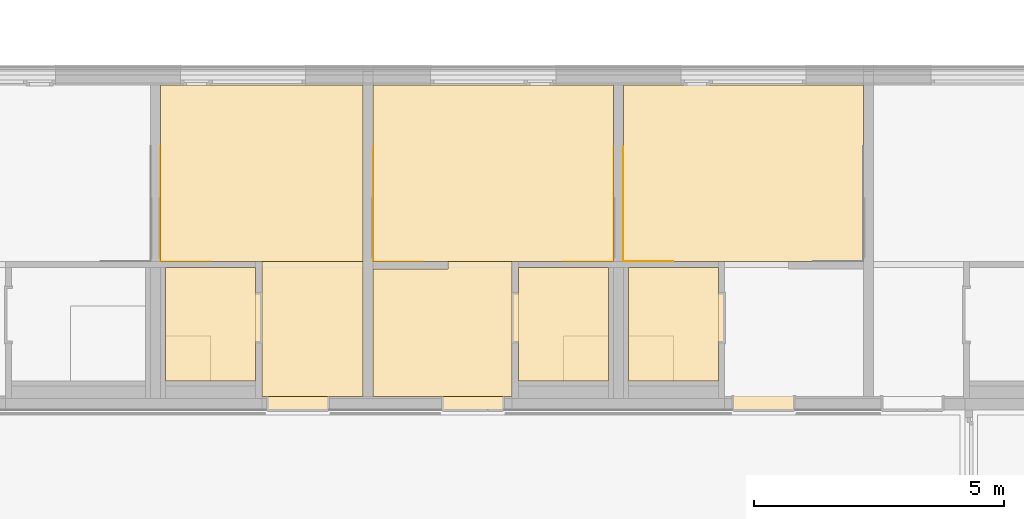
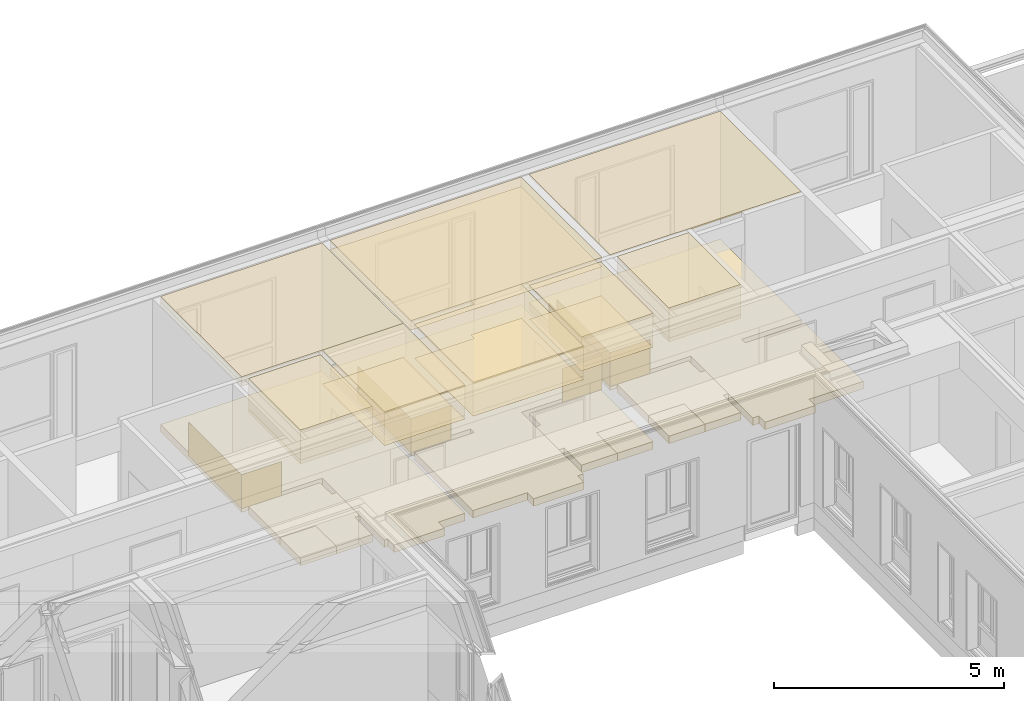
# One storey, part 174 of 207: 42 coverings.
"""IFC4 building model written with IfcOpenShell, lengths in metres."""

from ifc_helpers import new_model, entity, si_unit, converted_unit, derived_unit, frame, frame_2d, origin, origin_with_axes, place, context, subcontext, project, spatial, polyline, rectangle, outline, extrude, material, layer, layer_set, layer_usage, element, save


model = new_model("IFC4")

# Units and contexts
model_context = context("Model", 3, precision=1e-05, world=origin())
body_context = subcontext(model_context, "Body", "Model", "MODEL_VIEW")
ifc_project = project(units=[si_unit("LENGTHUNIT", "METRE"), si_unit("AREAUNIT", "SQUARE_METRE"), si_unit("VOLUMEUNIT", "CUBIC_METRE"), si_unit("MASSUNIT", "GRAM", prefix="KILO"), converted_unit("PLANEANGLEUNIT", "DEGREE", entity("IfcPlaneAngleMeasure", 0.0174532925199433), si_unit("PLANEANGLEUNIT", "RADIAN"), dimensions=[0, 0, 0, 0, 0, 0, 0]), derived_unit("THERMALTRANSMITTANCEUNIT", [(si_unit("POWERUNIT", "WATT"), 1), (si_unit("THERMODYNAMICTEMPERATUREUNIT", "KELVIN"), -1), (si_unit("LENGTHUNIT", "METRE"), -2)]), derived_unit("VOLUMETRICFLOWRATEUNIT", [(si_unit("LENGTHUNIT", "METRE"), 3), (converted_unit("TIMEUNIT", "hour", entity("IfcTimeMeasure", 3600.0), si_unit("TIMEUNIT", "SECOND"), dimensions=[0, 0, 1, 0, 0, 0, 0]), -1), (si_unit("LENGTHUNIT", "METRE"), -1)])], contexts=[model_context])

# Site, building, storey, space
site_placement = place(None, origin())
site = spatial("IfcSite", under=ifc_project, at=site_placement, Name="Psychiatrie Neubau Wunstorf", CompositionType="ELEMENT")
building_placement = place(site_placement, origin())
building = spatial("IfcBuilding", under=site, at=building_placement, Name="Neubau H2 Stationsgebäude", CompositionType="ELEMENT")
storey_placement = place(building_placement, frame((0.0, 0.0, -0.2)))
storey = spatial("IfcBuildingStorey", under=building, at=storey_placement, Name="H2 Ebene 0", CompositionType="ELEMENT", Elevation=-0.2)
space_1_placement = place(storey_placement, frame((23.0, 24.6995, 0.0)))
space_1 = spatial("IfcSpace", under=storey, at=space_1_placement, Name="WUN-H2-E00-045a", CompositionType="ELEMENT")

# Coverings
ifc_material_1 = material(Name="Fl1")
ifc_layer_1 = layer(ifc_material_1, 0.2)
ifc_layer_set_1 = layer_set([ifc_layer_1])
ifc_layer_usage_1 = layer_usage(ifc_layer_set_1, "AXIS3", "POSITIVE", 0.0)
covering_1_placement = place(space_1_placement, frame((-0.125, 0.0, 0.0)))
element("IfcCovering", 1, at=covering_1_placement, inside=space_1, material=ifc_layer_usage_1, Name="Fliesen", PredefinedType="FLOORING", context=body_context, shape_type="SweptSolid", body=[
    extrude(rectangle(XDim=0.125, YDim=1.01, at=frame_2d((0.0625, 0.505), x_axis=(1.0, 0.0))), frame((0.0, 0.755000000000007, 0.0), z_axis=(0.0, 0.0, 1.0), x_axis=(1.0, 0.0, 0.0)), (0.0, 0.0, 1.0), 0.2),
    extrude(outline(polyline([(0.899999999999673, 0.900000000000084), (1.8, 0.900000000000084), (1.8, 2.265), (0.0, 2.265), (0.0, 0.0), (0.899999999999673, 0.0), (0.899999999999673, 0.900000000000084)])), frame((0.125, 0.0, 0.0), z_axis=(0.0, 0.0, 1.0), x_axis=(1.0, 0.0, 0.0)), (0.0, 0.0, 1.0), 0.2),
])
ifc_material_2 = material(Name="Fl2")
ifc_layer_2 = layer(ifc_material_2, 0.2)
ifc_layer_set_2 = layer_set([ifc_layer_2])
ifc_layer_usage_2 = layer_usage(ifc_layer_set_2, "AXIS3", "POSITIVE", 0.0)
covering_2_placement = place(space_1_placement, frame((0.899999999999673, 0.0, 0.0)))
element("IfcCovering", 2, at=covering_2_placement, inside=space_1, material=ifc_layer_usage_2, Name="Fliesen Mosaik", PredefinedType="FLOORING", context=body_context, shape_type="SweptSolid", body=[
    extrude(rectangle(XDim=0.900000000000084, YDim=0.900000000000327, at=frame_2d((-0.450000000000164, 0.450000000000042), x_axis=(0.0, 1.0))), frame((0.900000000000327, 0.0, 0.0), z_axis=(0.0, 0.0, 1.0), x_axis=(1.0, 0.0, 0.0)), (0.0, 0.0, 1.0), 0.2),
])
ifc_material_3 = material()
ifc_layer_3 = layer(ifc_material_3, 0.036)
ifc_layer_set_3 = layer_set([ifc_layer_3])
ifc_layer_usage_3 = layer_usage(ifc_layer_set_3, "AXIS3", "POSITIVE", 0.0)
covering_3_placement = place(space_1_placement, frame((0.0, 0.0, 3.6)))
element("IfcCovering", 3, at=covering_3_placement, inside=space_1, material=ifc_layer_usage_3, Name="Gipsfaserplatten 2-lagig (BSK)", PredefinedType="CEILING", context=body_context, shape_type="SweptSolid", body=[
    extrude(rectangle(XDim=1.8, YDim=2.265, at=frame_2d((-0.9, -1.1325), x_axis=(-1.0, 0.0))), frame((1.8, 0.0, 0.0), z_axis=(0.0, 0.0, -1.0), x_axis=(1.0, 0.0, 0.0)), (0.0, 0.0, 1.0), 0.036),
])
ifc_material_4 = material(Name="Installationshöhe")
ifc_layer_4 = layer(ifc_material_4, 0.764)
ifc_layer_set_4 = layer_set([ifc_layer_4])
ifc_layer_usage_4 = layer_usage(ifc_layer_set_4, "AXIS3", "POSITIVE", 0.0)
covering_4_placement = place(space_1_placement, frame((0.0, 0.0, 3.564)))
element("IfcCovering", 4, at=covering_4_placement, inside=space_1, material=ifc_layer_usage_4, Name="Gipsfaserplatten 2-lagig (BSK)", PredefinedType="CEILING", context=body_context, shape_type="SweptSolid", body=[
    extrude(rectangle(XDim=1.8, YDim=2.265, at=frame_2d((-0.9, -1.1325), x_axis=(-1.0, 0.0))), frame((1.8, 0.0, 0.0), z_axis=(0.0, 0.0, -1.0), x_axis=(1.0, 0.0, 0.0)), (0.0, 0.0, 1.0), 0.764),
])
ifc_material_5 = material(Name="B")
ifc_layer_5 = layer(ifc_material_5, 0.1)
ifc_layer_set_5 = layer_set([ifc_layer_5])
ifc_layer_usage_5 = layer_usage(ifc_layer_set_5, "AXIS3", "POSITIVE", 0.0)
covering_5_placement = place(space_1_placement, frame((0.0, 0.0, 2.8)))
element("IfcCovering", 5, at=covering_5_placement, inside=space_1, material=ifc_layer_usage_5, Name="Gipskarton, imprägniert", PredefinedType="CEILING", context=body_context, shape_type="SweptSolid", body=[
    extrude(rectangle(XDim=1.8, YDim=2.265, at=frame_2d((-0.9, -1.1325), x_axis=(-1.0, 0.0))), frame((1.8, 0.0, 0.0), z_axis=(0.0, 0.0, -1.0), x_axis=(1.0, 0.0, 0.0)), (0.0, 0.0, 1.0), 0.1),
])
ifc_material_6 = material(Name="D1")
ifc_layer_6 = layer(ifc_material_6, 0.001)
ifc_layer_set_6 = layer_set([ifc_layer_6])
ifc_layer_usage_6 = layer_usage(ifc_layer_set_6, "AXIS3", "POSITIVE", 0.0)
covering_6_placement = place(space_1_placement, frame((0.0, 0.0, 2.7)))
element("IfcCovering", 6, at=covering_6_placement, inside=space_1, material=ifc_layer_usage_6, Name="Gipsfaserplatten 2-lagig (BSK)", PredefinedType="CEILING", context=body_context, shape_type="SweptSolid", body=[
    extrude(rectangle(XDim=1.8, YDim=2.265, at=frame_2d((-0.9, -1.1325), x_axis=(-1.0, 0.0))), frame((1.8, 0.0, 0.0), z_axis=(0.0, 0.0, -1.0), x_axis=(1.0, 0.0, 0.0)), (0.0, 0.0, 1.0), 0.001),
])

# Space
space_2_placement = place(storey_placement, frame((15.95, 24.6995, 0.0)))
space_2 = spatial("IfcSpace", under=storey, at=space_2_placement, Name="WUN-H2-E00-044a", CompositionType="ELEMENT")

# Coverings
ifc_material_7 = material(Name="Fl1")
ifc_layer_7 = layer(ifc_material_7, 0.2)
ifc_layer_set_7 = layer_set([ifc_layer_7])
ifc_layer_usage_7 = layer_usage(ifc_layer_set_7, "AXIS3", "POSITIVE", 0.0)
covering_7_placement = place(space_2_placement, origin())
element("IfcCovering", 7, at=covering_7_placement, inside=space_2, material=ifc_layer_usage_7, Name="Fliesen", PredefinedType="FLOORING", context=body_context, shape_type="SweptSolid", body=[
    extrude(rectangle(XDim=0.125, YDim=1.01, at=frame_2d((-0.0625, -0.505), x_axis=(-1.0, 0.0))), frame((1.925, 1.76500000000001, 0.0), z_axis=(0.0, 0.0, 1.0), x_axis=(1.0, 0.0, 0.0)), (0.0, 0.0, 1.0), 0.2),
    extrude(outline(polyline([(0.900000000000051, 0.0), (1.8, 0.0), (1.8, 2.265), (0.0, 2.265), (0.0, 0.900000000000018), (0.900000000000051, 0.900000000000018), (0.900000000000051, 0.0)])), origin_with_axes(), (0.0, 0.0, 1.0), 0.2),
])
ifc_material_8 = material(Name="Fl2")
ifc_layer_8 = layer(ifc_material_8, 0.2)
ifc_layer_set_8 = layer_set([ifc_layer_8])
ifc_layer_usage_8 = layer_usage(ifc_layer_set_8, "AXIS3", "POSITIVE", 0.0)
covering_8_placement = place(space_2_placement, origin())
element("IfcCovering", 8, at=covering_8_placement, inside=space_2, material=ifc_layer_usage_8, Name="Fliesen Mosaik", PredefinedType="FLOORING", context=body_context, shape_type="SweptSolid", body=[
    extrude(rectangle(XDim=0.900000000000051, YDim=0.9, at=frame_2d((0.450000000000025, 0.45), x_axis=(1.0, 0.0))), origin_with_axes(), (0.0, 0.0, 1.0), 0.2),
])
ifc_material_9 = material()
ifc_layer_9 = layer(ifc_material_9, 0.036)
ifc_layer_set_9 = layer_set([ifc_layer_9])
ifc_layer_usage_9 = layer_usage(ifc_layer_set_9, "AXIS3", "POSITIVE", 0.0)
covering_9_placement = place(space_2_placement, frame((0.0, 0.0, 3.6)))
element("IfcCovering", 9, at=covering_9_placement, inside=space_2, material=ifc_layer_usage_9, Name="Gipsfaserplatten 2-lagig (BSK)", PredefinedType="CEILING", context=body_context, shape_type="SweptSolid", body=[
    extrude(rectangle(XDim=1.8, YDim=2.265, at=frame_2d((0.9, 1.1325), x_axis=(1.0, 0.0))), frame((0.0, 2.265, 0.0), z_axis=(0.0, 0.0, -1.0), x_axis=(1.0, 0.0, 0.0)), (0.0, 0.0, 1.0), 0.036),
])
ifc_material_10 = material(Name="Installationshöhe")
ifc_layer_10 = layer(ifc_material_10, 0.764)
ifc_layer_set_10 = layer_set([ifc_layer_10])
ifc_layer_usage_10 = layer_usage(ifc_layer_set_10, "AXIS3", "POSITIVE", 0.0)
covering_10_placement = place(space_2_placement, frame((0.0, 0.0, 3.564)))
element("IfcCovering", 10, at=covering_10_placement, inside=space_2, material=ifc_layer_usage_10, Name="Gipsfaserplatten 2-lagig (BSK)", PredefinedType="CEILING", context=body_context, shape_type="SweptSolid", body=[
    extrude(rectangle(XDim=1.8, YDim=2.265, at=frame_2d((0.9, 1.1325), x_axis=(1.0, 0.0))), frame((0.0, 2.265, 0.0), z_axis=(0.0, 0.0, -1.0), x_axis=(1.0, 0.0, 0.0)), (0.0, 0.0, 1.0), 0.764),
])
ifc_material_11 = material(Name="B")
ifc_layer_11 = layer(ifc_material_11, 0.1)
ifc_layer_set_11 = layer_set([ifc_layer_11])
ifc_layer_usage_11 = layer_usage(ifc_layer_set_11, "AXIS3", "POSITIVE", 0.0)
covering_11_placement = place(space_2_placement, frame((0.0, 0.0, 2.8)))
element("IfcCovering", 11, at=covering_11_placement, inside=space_2, material=ifc_layer_usage_11, Name="Gipskarton, imprägniert", PredefinedType="CEILING", context=body_context, shape_type="SweptSolid", body=[
    extrude(rectangle(XDim=1.8, YDim=2.265, at=frame_2d((0.9, 1.1325), x_axis=(1.0, 0.0))), frame((0.0, 2.265, 0.0), z_axis=(0.0, 0.0, -1.0), x_axis=(1.0, 0.0, 0.0)), (0.0, 0.0, 1.0), 0.1),
])
ifc_material_12 = material(Name="D1")
ifc_layer_12 = layer(ifc_material_12, 0.001)
ifc_layer_set_12 = layer_set([ifc_layer_12])
ifc_layer_usage_12 = layer_usage(ifc_layer_set_12, "AXIS3", "POSITIVE", 0.0)
covering_12_placement = place(space_2_placement, frame((0.0, 0.0, 2.7)))
element("IfcCovering", 12, at=covering_12_placement, inside=space_2, material=ifc_layer_usage_12, Name="Gipsfaserplatten 2-lagig (BSK)", PredefinedType="CEILING", context=body_context, shape_type="SweptSolid", body=[
    extrude(rectangle(XDim=1.8, YDim=2.265, at=frame_2d((0.9, 1.1325), x_axis=(1.0, 0.0))), frame((0.0, 2.265, 0.0), z_axis=(0.0, 0.0, -1.0), x_axis=(1.0, 0.0, 0.0)), (0.0, 0.0, 1.0), 0.001),
])

# Space
space_3_placement = place(storey_placement, frame((25.2, 24.6995, 0.0)))
space_3 = spatial("IfcSpace", under=storey, at=space_3_placement, Name="WUN-H2-E00-046a", CompositionType="ELEMENT")

# Coverings
ifc_material_13 = material(Name="Fl1")
ifc_layer_13 = layer(ifc_material_13, 0.2)
ifc_layer_set_13 = layer_set([ifc_layer_13])
ifc_layer_usage_13 = layer_usage(ifc_layer_set_13, "AXIS3", "POSITIVE", 0.0)
covering_13_placement = place(space_3_placement, origin())
element("IfcCovering", 13, at=covering_13_placement, inside=space_3, material=ifc_layer_usage_13, Name="Fliesen", PredefinedType="FLOORING", context=body_context, shape_type="SweptSolid", body=[
    extrude(rectangle(XDim=0.125, YDim=1.01, at=frame_2d((-0.0625, -0.505), x_axis=(-1.0, 0.0))), frame((1.925, 1.76500000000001, 0.0), z_axis=(0.0, 0.0, 1.0), x_axis=(1.0, 0.0, 0.0)), (0.0, 0.0, 1.0), 0.2),
    extrude(outline(polyline([(0.900000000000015, 0.0), (1.8, 0.0), (1.8, 2.265), (0.0, 2.265), (0.0, 0.900000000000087), (0.900000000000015, 0.900000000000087), (0.900000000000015, 0.0)])), origin_with_axes(), (0.0, 0.0, 1.0), 0.2),
])
ifc_material_14 = material(Name="Fl2")
ifc_layer_14 = layer(ifc_material_14, 0.2)
ifc_layer_set_14 = layer_set([ifc_layer_14])
ifc_layer_usage_14 = layer_usage(ifc_layer_set_14, "AXIS3", "POSITIVE", 0.0)
covering_14_placement = place(space_3_placement, origin())
element("IfcCovering", 14, at=covering_14_placement, inside=space_3, material=ifc_layer_usage_14, Name="Fliesen Mosaik", PredefinedType="FLOORING", context=body_context, shape_type="SweptSolid", body=[
    extrude(rectangle(XDim=0.900000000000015, YDim=0.900000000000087, at=frame_2d((0.450000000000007, 0.450000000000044), x_axis=(1.0, 0.0))), origin_with_axes(), (0.0, 0.0, 1.0), 0.2),
])
ifc_material_15 = material()
ifc_layer_15 = layer(ifc_material_15, 0.036)
ifc_layer_set_15 = layer_set([ifc_layer_15])
ifc_layer_usage_15 = layer_usage(ifc_layer_set_15, "AXIS3", "POSITIVE", 0.0)
covering_15_placement = place(space_3_placement, frame((0.0, 0.0, 3.6)))
element("IfcCovering", 15, at=covering_15_placement, inside=space_3, material=ifc_layer_usage_15, Name="Gipsfaserplatten 2-lagig (BSK)", PredefinedType="CEILING", context=body_context, shape_type="SweptSolid", body=[
    extrude(rectangle(XDim=1.8, YDim=2.265, at=frame_2d((-0.9, -1.1325), x_axis=(-1.0, 0.0))), frame((1.8, 0.0, 0.0), z_axis=(0.0, 0.0, -1.0), x_axis=(1.0, 0.0, 0.0)), (0.0, 0.0, 1.0), 0.036),
])
ifc_material_16 = material(Name="Installationshöhe")
ifc_layer_16 = layer(ifc_material_16, 0.764)
ifc_layer_set_16 = layer_set([ifc_layer_16])
ifc_layer_usage_16 = layer_usage(ifc_layer_set_16, "AXIS3", "POSITIVE", 0.0)
covering_16_placement = place(space_3_placement, frame((0.0, 0.0, 3.564)))
element("IfcCovering", 16, at=covering_16_placement, inside=space_3, material=ifc_layer_usage_16, Name="Gipsfaserplatten 2-lagig (BSK)", PredefinedType="CEILING", context=body_context, shape_type="SweptSolid", body=[
    extrude(rectangle(XDim=1.8, YDim=2.265, at=frame_2d((-0.9, -1.1325), x_axis=(-1.0, 0.0))), frame((1.8, 0.0, 0.0), z_axis=(0.0, 0.0, -1.0), x_axis=(1.0, 0.0, 0.0)), (0.0, 0.0, 1.0), 0.764),
])
ifc_material_17 = material(Name="B")
ifc_layer_17 = layer(ifc_material_17, 0.1)
ifc_layer_set_17 = layer_set([ifc_layer_17])
ifc_layer_usage_17 = layer_usage(ifc_layer_set_17, "AXIS3", "POSITIVE", 0.0)
covering_17_placement = place(space_3_placement, frame((0.0, 0.0, 2.8)))
element("IfcCovering", 17, at=covering_17_placement, inside=space_3, material=ifc_layer_usage_17, Name="Gipskarton, imprägniert", PredefinedType="CEILING", context=body_context, shape_type="SweptSolid", body=[
    extrude(rectangle(XDim=1.8, YDim=2.265, at=frame_2d((-0.9, -1.1325), x_axis=(-1.0, 0.0))), frame((1.8, 0.0, 0.0), z_axis=(0.0, 0.0, -1.0), x_axis=(1.0, 0.0, 0.0)), (0.0, 0.0, 1.0), 0.1),
])
ifc_material_18 = material(Name="D1")
ifc_layer_18 = layer(ifc_material_18, 0.001)
ifc_layer_set_18 = layer_set([ifc_layer_18])
ifc_layer_usage_18 = layer_usage(ifc_layer_set_18, "AXIS3", "POSITIVE", 0.0)
covering_18_placement = place(space_3_placement, frame((0.0, 0.0, 2.7)))
element("IfcCovering", 18, at=covering_18_placement, inside=space_3, material=ifc_layer_usage_18, Name="Gipsfaserplatten 2-lagig (BSK)", PredefinedType="CEILING", context=body_context, shape_type="SweptSolid", body=[
    extrude(rectangle(XDim=1.8, YDim=2.265, at=frame_2d((-0.9, -1.1325), x_axis=(-1.0, 0.0))), frame((1.8, 0.0, 0.0), z_axis=(0.0, 0.0, -1.0), x_axis=(1.0, 0.0, 0.0)), (0.0, 0.0, 1.0), 0.001),
])

# Space
space_4_placement = place(storey_placement, frame((25.1, 24.3895, 0.0)))
space_4 = spatial("IfcSpace", under=storey, at=space_4_placement, Name="WUN-H2-E00-046", CompositionType="ELEMENT")

# Coverings
ifc_material_19 = material(Name="84")
ifc_layer_19 = layer(ifc_material_19, 0.001)
ifc_layer_set_19 = layer_set([ifc_layer_19])
ifc_layer_usage_19 = layer_usage(ifc_layer_set_19, "AXIS3", "POSITIVE", 0.0)
covering_19_placement = place(space_4_placement, frame((0.0, 2.69999999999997, 0.1)))
element("IfcCovering", 19, at=covering_19_placement, inside=space_4, material=ifc_layer_usage_19, Name="Acrobyn", PredefinedType="CLADDING", context=body_context, shape_type="SweptSolid", body=[
    extrude(rectangle(XDim=2.3, YDim=0.9, at=frame_2d((1.15, -0.45), x_axis=(1.0, 0.0))), frame((0.0, 2.3, 0.0), z_axis=(1.0, 0.0, 0.0), x_axis=(0.0, -1.0, 0.0)), (0.0, 0.0, 1.0), 0.001),
    extrude(rectangle(XDim=1.00000000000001, YDim=0.9, at=frame_2d((0.500000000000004, -0.45), x_axis=(1.0, 0.0))), frame((0.0, 0.0, 0.0), z_axis=(0.0, 1.0, 0.0), x_axis=(1.0, 0.0, 0.0)), (0.0, 0.0, 1.0), 0.001),
])
ifc_material_20 = material(Name="Ku1")
ifc_layer_20 = layer(ifc_material_20, 0.2)
ifc_layer_set_20 = layer_set([ifc_layer_20])
ifc_layer_usage_20 = layer_usage(ifc_layer_set_20, "AXIS3", "POSITIVE", 0.0)
covering_20_placement = place(space_4_placement, frame((0.0, -0.271999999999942, 0.0)))
element("IfcCovering", 20, at=covering_20_placement, inside=space_4, material=ifc_layer_usage_20, Name="PVC Bahnenware Holzoptik", PredefinedType="FLOORING", context=body_context, shape_type="SweptSolid", body=[
    extrude(rectangle(XDim=0.272000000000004, YDim=1.26, at=frame_2d((0.629999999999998, -0.136000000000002), x_axis=(-1.33749220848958e-14, -1.0))), frame((2.175, 0.272000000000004, 0.0), z_axis=(0.0, 0.0, 1.0), x_axis=(1.0, 0.0, 0.0)), (0.0, 0.0, 1.0), 0.2),
    extrude(outline(polyline([(4.8, 0.0), (4.79999999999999, 2.54999999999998), (3.29999999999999, 2.54999999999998), (3.29999999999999, 2.69999999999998), (4.8, 2.69999999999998), (4.8, 6.22450000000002), (0.0, 6.22450000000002), (0.0, 2.69999999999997), (2.025, 2.69999999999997), (2.025, 0.0), (4.8, 0.0)])), frame((0.0, 0.271999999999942, 0.0), z_axis=(0.0, 0.0, 1.0), x_axis=(1.0, 0.0, 0.0)), (0.0, 0.0, 1.0), 0.2),
])
ifc_material_21 = material()
ifc_layer_21 = layer(ifc_material_21, 0.036)
ifc_layer_set_21 = layer_set([ifc_layer_21])
ifc_layer_usage_21 = layer_usage(ifc_layer_set_21, "AXIS3", "POSITIVE", 0.0)
covering_21_placement = place(space_4_placement, frame((0.0, 2.69999999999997, 3.6)))
element("IfcCovering", 21, at=covering_21_placement, inside=space_4, material=ifc_layer_usage_21, Name="Gipsfaserplatten 2-lagig (BSK)", PredefinedType="CEILING", context=body_context, shape_type="SweptSolid", body=[
    extrude(rectangle(XDim=3.52450000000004, YDim=4.8, at=frame_2d((2.4, -1.76225000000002), x_axis=(0.0, -1.0))), frame((0.0, 0.0, 0.0), z_axis=(0.0, 0.0, -1.0), x_axis=(1.0, 0.0, 0.0)), (0.0, 0.0, 1.0), 0.036),
])

# Space
space_5_placement = place(storey_placement, frame((20.1, 24.3895, 0.0)))
space_5 = spatial("IfcSpace", under=storey, at=space_5_placement, Name="WUN-H2-E00-045", CompositionType="ELEMENT")

# Coverings
ifc_material_22 = material(Name="84")
ifc_layer_22 = layer(ifc_material_22, 0.001)
ifc_layer_set_22 = layer_set([ifc_layer_22])
ifc_layer_usage_22 = layer_usage(ifc_layer_set_22, "AXIS3", "POSITIVE", 0.0)
covering_22_placement = place(space_5_placement, frame((3.80000000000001, 2.69999999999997, 0.1)))
element("IfcCovering", 22, at=covering_22_placement, inside=space_5, material=ifc_layer_usage_22, Name="Acrobyn", PredefinedType="CLADDING", context=body_context, shape_type="SweptSolid", body=[
    extrude(rectangle(XDim=0.9, YDim=2.3, at=frame_2d((-1.15, -0.45), x_axis=(0.0, -1.0))), frame((1.0, 2.3, 0.0), z_axis=(-1.0, 0.0, 0.0), x_axis=(0.0, 1.0, 0.0)), (0.0, 0.0, 1.0), 0.001),
    extrude(rectangle(XDim=0.9, YDim=1.0, at=frame_2d((-0.5, -0.45), x_axis=(0.0, -1.0))), frame((1.0, 0.0, 0.0), z_axis=(0.0, 1.0, 0.0), x_axis=(1.0, 0.0, 0.0)), (0.0, 0.0, 1.0), 0.001),
])
ifc_material_23 = material(Name="84")
ifc_layer_23 = layer(ifc_material_23, 0.001)
ifc_layer_set_23 = layer_set([ifc_layer_23])
ifc_layer_usage_23 = layer_usage(ifc_layer_set_23, "AXIS3", "POSITIVE", 0.0)
covering_23_placement = place(space_5_placement, frame((0.0, 2.69999999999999, 0.1)))
element("IfcCovering", 23, at=covering_23_placement, inside=space_5, material=ifc_layer_usage_23, Name="Acrobyn", PredefinedType="CLADDING", context=body_context, shape_type="SweptSolid", body=[
    extrude(rectangle(XDim=2.3, YDim=0.9, at=frame_2d((1.15, -0.45), x_axis=(1.0, 0.0))), frame((0.0, 2.3, 0.0), z_axis=(1.0, 0.0, 0.0), x_axis=(0.0, -1.0, 0.0)), (0.0, 0.0, 1.0), 0.001),
    extrude(rectangle(XDim=1.00000000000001, YDim=0.9, at=frame_2d((0.500000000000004, -0.45), x_axis=(1.0, 0.0))), frame((0.0, 0.0, 0.0), z_axis=(0.0, 1.0, 0.0), x_axis=(1.0, 0.0, 0.0)), (0.0, 0.0, 1.0), 0.001),
])
ifc_material_24 = material(Name="Ku1")
ifc_layer_24 = layer(ifc_material_24, 0.2)
ifc_layer_set_24 = layer_set([ifc_layer_24])
ifc_layer_usage_24 = layer_usage(ifc_layer_set_24, "AXIS3", "POSITIVE", 0.0)
covering_24_placement = place(space_5_placement, frame((0.0, -0.271999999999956, 0.0)))
element("IfcCovering", 24, at=covering_24_placement, inside=space_5, material=ifc_layer_usage_24, Name="PVC Bahnenware Holzoptik", PredefinedType="FLOORING", context=body_context, shape_type="SweptSolid", body=[
    extrude(rectangle(XDim=0.272, YDim=1.26, at=frame_2d((0.63, -0.135999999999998), x_axis=(0.0, -1.0))), frame((1.36500000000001, 0.272, 0.0), z_axis=(0.0, 0.0, 1.0), x_axis=(1.0, 0.0, 0.0)), (0.0, 0.0, 1.0), 0.2),
    extrude(outline(polyline([(2.77500000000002, 2.69999999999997), (4.80000000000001, 2.69999999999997), (4.80000000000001, 6.22450000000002), (0.0, 6.22450000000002), (0.0, 2.69999999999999), (1.50000000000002, 2.69999999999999), (1.5, 2.54999999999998), (0.0, 2.54999999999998), (0.0, 0.0), (2.77500000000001, 0.0), (2.77500000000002, 2.69999999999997)])), frame((0.0, 0.271999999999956, 0.0), z_axis=(0.0, 0.0, 1.0), x_axis=(1.0, 0.0, 0.0)), (0.0, 0.0, 1.0), 0.2),
])
ifc_material_25 = material()
ifc_layer_25 = layer(ifc_material_25, 0.036)
ifc_layer_set_25 = layer_set([ifc_layer_25])
ifc_layer_usage_25 = layer_usage(ifc_layer_set_25, "AXIS3", "POSITIVE", 0.0)
covering_25_placement = place(space_5_placement, frame((0.0, 0.0, 3.6)))
element("IfcCovering", 25, at=covering_25_placement, inside=space_5, material=ifc_layer_usage_25, Name="Gipsfaserplatten 2-lagig (BSK)", PredefinedType="CEILING", context=body_context, shape_type="SweptSolid", body=[
    extrude(outline(polyline([(0.0, 2.69999999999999), (0.0, 0.150000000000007), (1.5, 0.150000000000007), (1.50000000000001, 0.0), (2.77500000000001, 0.0), (2.77500000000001, 2.69999999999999), (0.0, 2.69999999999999)])), frame((0.0, 2.69999999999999, 0.0), z_axis=(0.0, 0.0, -1.0), x_axis=(1.0, 0.0, 0.0)), (0.0, 0.0, 1.0), 0.036),
])
ifc_material_26 = material(Name="Installationshöhe")
ifc_layer_26 = layer(ifc_material_26, 0.764)
ifc_layer_set_26 = layer_set([ifc_layer_26])
ifc_layer_usage_26 = layer_usage(ifc_layer_set_26, "AXIS3", "POSITIVE", 0.0)
covering_26_placement = place(space_5_placement, frame((0.0, 0.0, 3.564)))
element("IfcCovering", 26, at=covering_26_placement, inside=space_5, material=ifc_layer_usage_26, Name="Gipsfaserplatten 2-lagig (BSK)", PredefinedType="CEILING", context=body_context, shape_type="SweptSolid", body=[
    extrude(outline(polyline([(0.0, 2.69999999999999), (0.0, 0.150000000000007), (1.5, 0.150000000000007), (1.50000000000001, 0.0), (2.77500000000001, 0.0), (2.77500000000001, 2.69999999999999), (0.0, 2.69999999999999)])), frame((0.0, 2.69999999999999, 0.0), z_axis=(0.0, 0.0, -1.0), x_axis=(1.0, 0.0, 0.0)), (0.0, 0.0, 1.0), 0.764),
])
ifc_material_27 = material(Name="A1")
ifc_layer_27 = layer(ifc_material_27, 0.1)
ifc_layer_set_27 = layer_set([ifc_layer_27])
ifc_layer_usage_27 = layer_usage(ifc_layer_set_27, "AXIS3", "POSITIVE", 0.0)
covering_27_placement = place(space_5_placement, frame((0.0, 0.0, 2.8)))
element("IfcCovering", 27, at=covering_27_placement, inside=space_5, material=ifc_layer_usage_27, Name="Gipsfaserplatten 2-lagig (BSK)", PredefinedType="CEILING", context=body_context, shape_type="SweptSolid", body=[
    extrude(outline(polyline([(0.0, 2.69999999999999), (0.0, 0.150000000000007), (1.5, 0.150000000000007), (1.50000000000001, 0.0), (2.77500000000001, 0.0), (2.77500000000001, 2.69999999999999), (0.0, 2.69999999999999)])), frame((0.0, 2.69999999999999, 0.0), z_axis=(0.0, 0.0, -1.0), x_axis=(1.0, 0.0, 0.0)), (0.0, 0.0, 1.0), 0.1),
])
ifc_material_28 = material(Name="D1")
ifc_layer_28 = layer(ifc_material_28, 0.001)
ifc_layer_set_28 = layer_set([ifc_layer_28])
ifc_layer_usage_28 = layer_usage(ifc_layer_set_28, "AXIS3", "POSITIVE", 0.0)
covering_28_placement = place(space_5_placement, frame((0.0, 0.0, 2.7)))
element("IfcCovering", 28, at=covering_28_placement, inside=space_5, material=ifc_layer_usage_28, Name="Gipsfaserplatten 2-lagig (BSK)", PredefinedType="CEILING", context=body_context, shape_type="SweptSolid", body=[
    extrude(outline(polyline([(0.0, 2.69999999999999), (0.0, 0.150000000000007), (1.5, 0.150000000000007), (1.50000000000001, 0.0), (2.77500000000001, 0.0), (2.77500000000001, 2.69999999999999), (0.0, 2.69999999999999)])), frame((0.0, 2.69999999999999, 0.0), z_axis=(0.0, 0.0, -1.0), x_axis=(1.0, 0.0, 0.0)), (0.0, 0.0, 1.0), 0.001),
])
ifc_material_29 = material()
ifc_layer_29 = layer(ifc_material_29, 0.036)
ifc_layer_set_29 = layer_set([ifc_layer_29])
ifc_layer_usage_29 = layer_usage(ifc_layer_set_29, "AXIS3", "POSITIVE", 0.0)
covering_29_placement = place(space_5_placement, frame((0.0, 2.69999999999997, 3.6)))
element("IfcCovering", 29, at=covering_29_placement, inside=space_5, material=ifc_layer_usage_29, Name="Gipsfaserplatten 2-lagig (BSK)", PredefinedType="CEILING", context=body_context, shape_type="SweptSolid", body=[
    extrude(rectangle(XDim=4.8, YDim=3.52450000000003, at=frame_2d((-2.4, -1.76225000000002), x_axis=(-1.0, -3.03164900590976e-15))), frame((4.8, 0.0, 0.0), z_axis=(0.0, 0.0, -1.0), x_axis=(1.0, 0.0, 0.0)), (0.0, 0.0, 1.0), 0.036),
])
ifc_material_30 = material(Name="Installationshöhe")
ifc_layer_30 = layer(ifc_material_30, 0.114)
ifc_layer_set_30 = layer_set([ifc_layer_30])
ifc_layer_usage_30 = layer_usage(ifc_layer_set_30, "AXIS3", "POSITIVE", 0.0)
covering_30_placement = place(space_5_placement, frame((0.0, 2.69999999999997, 3.564)))
element("IfcCovering", 30, at=covering_30_placement, inside=space_5, material=ifc_layer_usage_30, Name="Gipsfaserplatten 2-lagig (BSK)", PredefinedType="CEILING", context=body_context, shape_type="SweptSolid", body=[
    extrude(rectangle(XDim=4.8, YDim=3.52450000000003, at=frame_2d((-2.4, -1.76225000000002), x_axis=(-1.0, -3.03164900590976e-15))), frame((4.8, 0.0, 0.0), z_axis=(0.0, 0.0, -1.0), x_axis=(1.0, 0.0, 0.0)), (0.0, 0.0, 1.0), 0.114),
])
ifc_material_31 = material(Name="A1")
ifc_layer_31 = layer(ifc_material_31, 0.1)
ifc_layer_set_31 = layer_set([ifc_layer_31])
ifc_layer_usage_31 = layer_usage(ifc_layer_set_31, "AXIS3", "POSITIVE", 0.0)
covering_31_placement = place(space_5_placement, frame((0.0, 2.69999999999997, 3.45)))
element("IfcCovering", 31, at=covering_31_placement, inside=space_5, material=ifc_layer_usage_31, Name="Gipsfaserplatten 2-lagig (BSK)", PredefinedType="CEILING", context=body_context, shape_type="SweptSolid", body=[
    extrude(rectangle(XDim=4.8, YDim=3.52450000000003, at=frame_2d((-2.4, -1.76225000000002), x_axis=(-1.0, -3.03164900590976e-15))), frame((4.8, 0.0, 0.0), z_axis=(0.0, 0.0, -1.0), x_axis=(1.0, 0.0, 0.0)), (0.0, 0.0, 1.0), 0.1),
])
ifc_material_32 = material(Name="D1")
ifc_layer_32 = layer(ifc_material_32, 0.001)
ifc_layer_set_32 = layer_set([ifc_layer_32])
ifc_layer_usage_32 = layer_usage(ifc_layer_set_32, "AXIS3", "POSITIVE", 0.0)
covering_32_placement = place(space_5_placement, frame((0.0, 2.69999999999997, 3.35)))
element("IfcCovering", 32, at=covering_32_placement, inside=space_5, material=ifc_layer_usage_32, Name="Gipsfaserplatten 2-lagig (BSK)", PredefinedType="CEILING", context=body_context, shape_type="SweptSolid", body=[
    extrude(rectangle(XDim=4.8, YDim=3.52450000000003, at=frame_2d((-2.4, -1.76225000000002), x_axis=(-1.0, -3.03164900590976e-15))), frame((4.8, 0.0, 0.0), z_axis=(0.0, 0.0, -1.0), x_axis=(1.0, 0.0, 0.0)), (0.0, 0.0, 1.0), 0.001),
])

# Space
space_6_placement = place(storey_placement, frame((15.85, 24.3895, 0.0)))
space_6 = spatial("IfcSpace", under=storey, at=space_6_placement, Name="WUN-H2-E00-044", CompositionType="ELEMENT")

# Coverings
ifc_material_33 = material(Name="84")
ifc_layer_33 = layer(ifc_material_33, 0.001)
ifc_layer_set_33 = layer_set([ifc_layer_33])
ifc_layer_usage_33 = layer_usage(ifc_layer_set_33, "AXIS3", "POSITIVE", 0.0)
covering_33_placement = place(space_6_placement, frame((0.0, 2.69999999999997, 0.1)))
element("IfcCovering", 33, at=covering_33_placement, inside=space_6, material=ifc_layer_usage_33, Name="Acrobyn", PredefinedType="CLADDING", context=body_context, shape_type="SweptSolid", body=[
    extrude(rectangle(XDim=2.3, YDim=0.9, at=frame_2d((1.15, -0.45), x_axis=(1.0, 0.0))), frame((0.0, 2.3, 0.0), z_axis=(1.0, 0.0, 0.0), x_axis=(0.0, -1.0, 0.0)), (0.0, 0.0, 1.0), 0.001),
    extrude(rectangle(XDim=1.00000000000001, YDim=0.9, at=frame_2d((0.500000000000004, -0.45), x_axis=(1.0, 0.0))), frame((0.0, 0.0, 0.0), z_axis=(0.0, 1.0, 0.0), x_axis=(1.0, 0.0, 0.0)), (0.0, 0.0, 1.0), 0.001),
])
ifc_material_34 = material(Name="Ku1")
ifc_layer_34 = layer(ifc_material_34, 0.2)
ifc_layer_set_34 = layer_set([ifc_layer_34])
ifc_layer_usage_34 = layer_usage(ifc_layer_set_34, "AXIS3", "POSITIVE", 0.0)
covering_34_placement = place(space_6_placement, frame((0.0, -0.271999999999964, 0.0)))
element("IfcCovering", 34, at=covering_34_placement, inside=space_6, material=ifc_layer_usage_34, Name="PVC Bahnenware Holzoptik", PredefinedType="FLOORING", context=body_context, shape_type="SweptSolid", body=[
    extrude(rectangle(XDim=0.272, YDim=1.26, at=frame_2d((0.63, -0.135999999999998), x_axis=(0.0, -1.0))), frame((2.115, 0.271999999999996, 0.0), z_axis=(0.0, 0.0, 1.0), x_axis=(1.0, 0.0, 0.0)), (0.0, 0.0, 1.0), 0.2),
    extrude(outline(polyline([(4.05, 6.22450000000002), (0.0, 6.22450000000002), (0.0, 2.69999999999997), (2.025, 2.69999999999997), (2.025, 0.0), (4.05, 0.0), (4.05, 6.22450000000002)])), frame((0.0, 0.271999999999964, 0.0), z_axis=(0.0, 0.0, 1.0), x_axis=(1.0, 0.0, 0.0)), (0.0, 0.0, 1.0), 0.2),
])
ifc_material_35 = material()
ifc_layer_35 = layer(ifc_material_35, 0.036)
ifc_layer_set_35 = layer_set([ifc_layer_35])
ifc_layer_usage_35 = layer_usage(ifc_layer_set_35, "AXIS3", "POSITIVE", 0.0)
covering_35_placement = place(space_6_placement, frame((2.025, 0.0, 3.6)))
element("IfcCovering", 35, at=covering_35_placement, inside=space_6, material=ifc_layer_usage_35, Name="Gipsfaserplatten 2-lagig (BSK)", PredefinedType="CEILING", context=body_context, shape_type="SweptSolid", body=[
    extrude(rectangle(XDim=2.69999999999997, YDim=2.025, at=frame_2d((1.0125, -1.34999999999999), x_axis=(1.34739955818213e-15, -1.0))), frame((0.0, 0.0, 0.0), z_axis=(0.0, 0.0, -1.0), x_axis=(1.0, 0.0, 0.0)), (0.0, 0.0, 1.0), 0.036),
])
ifc_material_36 = material(Name="Installationshöhe")
ifc_layer_36 = layer(ifc_material_36, 0.764)
ifc_layer_set_36 = layer_set([ifc_layer_36])
ifc_layer_usage_36 = layer_usage(ifc_layer_set_36, "AXIS3", "POSITIVE", 0.0)
covering_36_placement = place(space_6_placement, frame((2.025, 0.0, 3.564)))
element("IfcCovering", 36, at=covering_36_placement, inside=space_6, material=ifc_layer_usage_36, Name="Gipsfaserplatten 2-lagig (BSK)", PredefinedType="CEILING", context=body_context, shape_type="SweptSolid", body=[
    extrude(rectangle(XDim=2.69999999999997, YDim=2.025, at=frame_2d((1.0125, -1.34999999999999), x_axis=(1.34739955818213e-15, -1.0))), frame((0.0, 0.0, 0.0), z_axis=(0.0, 0.0, -1.0), x_axis=(1.0, 0.0, 0.0)), (0.0, 0.0, 1.0), 0.764),
])
ifc_material_37 = material(Name="A1")
ifc_layer_37 = layer(ifc_material_37, 0.1)
ifc_layer_set_37 = layer_set([ifc_layer_37])
ifc_layer_usage_37 = layer_usage(ifc_layer_set_37, "AXIS3", "POSITIVE", 0.0)
covering_37_placement = place(space_6_placement, frame((2.025, 0.0, 2.8)))
element("IfcCovering", 37, at=covering_37_placement, inside=space_6, material=ifc_layer_usage_37, Name="Gipsfaserplatten 2-lagig (BSK)", PredefinedType="CEILING", context=body_context, shape_type="SweptSolid", body=[
    extrude(rectangle(XDim=2.69999999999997, YDim=2.025, at=frame_2d((1.0125, -1.34999999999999), x_axis=(1.34739955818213e-15, -1.0))), frame((0.0, 0.0, 0.0), z_axis=(0.0, 0.0, -1.0), x_axis=(1.0, 0.0, 0.0)), (0.0, 0.0, 1.0), 0.1),
])
ifc_material_38 = material(Name="D1")
ifc_layer_38 = layer(ifc_material_38, 0.001)
ifc_layer_set_38 = layer_set([ifc_layer_38])
ifc_layer_usage_38 = layer_usage(ifc_layer_set_38, "AXIS3", "POSITIVE", 0.0)
covering_38_placement = place(space_6_placement, frame((2.025, 0.0, 2.7)))
element("IfcCovering", 38, at=covering_38_placement, inside=space_6, material=ifc_layer_usage_38, Name="Gipsfaserplatten 2-lagig (BSK)", PredefinedType="CEILING", context=body_context, shape_type="SweptSolid", body=[
    extrude(rectangle(XDim=2.69999999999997, YDim=2.025, at=frame_2d((1.0125, -1.34999999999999), x_axis=(1.34739955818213e-15, -1.0))), frame((0.0, 0.0, 0.0), z_axis=(0.0, 0.0, -1.0), x_axis=(1.0, 0.0, 0.0)), (0.0, 0.0, 1.0), 0.001),
])
ifc_material_39 = material()
ifc_layer_39 = layer(ifc_material_39, 0.036)
ifc_layer_set_39 = layer_set([ifc_layer_39])
ifc_layer_usage_39 = layer_usage(ifc_layer_set_39, "AXIS3", "POSITIVE", 0.0)
covering_39_placement = place(space_6_placement, frame((0.0, 2.69999999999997, 3.6)))
element("IfcCovering", 39, at=covering_39_placement, inside=space_6, material=ifc_layer_usage_39, Name="Gipsfaserplatten 2-lagig (BSK)", PredefinedType="CEILING", context=body_context, shape_type="SweptSolid", body=[
    extrude(rectangle(XDim=4.04999999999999, YDim=3.52450000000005, at=frame_2d((2.025, 1.76225000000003), x_axis=(1.0, 0.0))), frame((0.0, 3.52450000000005, 0.0), z_axis=(0.0, 0.0, -1.0), x_axis=(1.0, 0.0, 0.0)), (0.0, 0.0, 1.0), 0.036),
])
ifc_material_40 = material(Name="Installationshöhe")
ifc_layer_40 = layer(ifc_material_40, 0.114)
ifc_layer_set_40 = layer_set([ifc_layer_40])
ifc_layer_usage_40 = layer_usage(ifc_layer_set_40, "AXIS3", "POSITIVE", 0.0)
covering_40_placement = place(space_6_placement, frame((0.0, 2.69999999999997, 3.564)))
element("IfcCovering", 40, at=covering_40_placement, inside=space_6, material=ifc_layer_usage_40, Name="Gipsfaserplatten 2-lagig (BSK)", PredefinedType="CEILING", context=body_context, shape_type="SweptSolid", body=[
    extrude(rectangle(XDim=4.04999999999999, YDim=3.52450000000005, at=frame_2d((2.025, 1.76225000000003), x_axis=(1.0, 0.0))), frame((0.0, 3.52450000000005, 0.0), z_axis=(0.0, 0.0, -1.0), x_axis=(1.0, 0.0, 0.0)), (0.0, 0.0, 1.0), 0.114),
])
ifc_material_41 = material(Name="A1")
ifc_layer_41 = layer(ifc_material_41, 0.1)
ifc_layer_set_41 = layer_set([ifc_layer_41])
ifc_layer_usage_41 = layer_usage(ifc_layer_set_41, "AXIS3", "POSITIVE", 0.0)
covering_41_placement = place(space_6_placement, frame((0.0, 2.69999999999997, 3.45)))
element("IfcCovering", 41, at=covering_41_placement, inside=space_6, material=ifc_layer_usage_41, Name="Gipsfaserplatten 2-lagig (BSK)", PredefinedType="CEILING", context=body_context, shape_type="SweptSolid", body=[
    extrude(rectangle(XDim=4.04999999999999, YDim=3.52450000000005, at=frame_2d((2.025, 1.76225000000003), x_axis=(1.0, 0.0))), frame((0.0, 3.52450000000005, 0.0), z_axis=(0.0, 0.0, -1.0), x_axis=(1.0, 0.0, 0.0)), (0.0, 0.0, 1.0), 0.1),
])
ifc_material_42 = material(Name="D1")
ifc_layer_42 = layer(ifc_material_42, 0.001)
ifc_layer_set_42 = layer_set([ifc_layer_42])
ifc_layer_usage_42 = layer_usage(ifc_layer_set_42, "AXIS3", "POSITIVE", 0.0)
covering_42_placement = place(space_6_placement, frame((0.0, 2.69999999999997, 3.35)))
element("IfcCovering", 42, at=covering_42_placement, inside=space_6, material=ifc_layer_usage_42, Name="Gipsfaserplatten 2-lagig (BSK)", PredefinedType="CEILING", context=body_context, shape_type="SweptSolid", body=[
    extrude(rectangle(XDim=4.04999999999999, YDim=3.52450000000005, at=frame_2d((2.025, 1.76225000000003), x_axis=(1.0, 0.0))), frame((0.0, 3.52450000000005, 0.0), z_axis=(0.0, 0.0, -1.0), x_axis=(1.0, 0.0, 0.0)), (0.0, 0.0, 1.0), 0.001),
])

save(model, "model.ifc")
